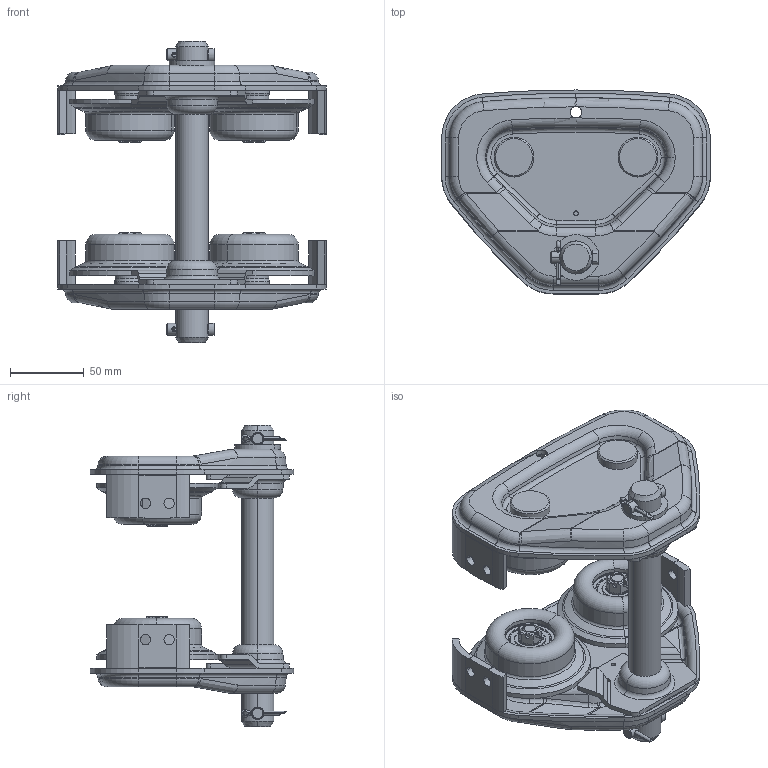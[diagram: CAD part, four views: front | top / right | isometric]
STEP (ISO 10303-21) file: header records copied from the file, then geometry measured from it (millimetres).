
FILE_DESCRIPTION (( 'STEP AP214' ), '1' );
FILE_NAME ('PTS2005.STEP', '2026-08-17T13:01:46', ( '' ), ( '' ), 'SwSTEP 2.0', 'SolidWorks 2026', '' );
FILE_SCHEMA (( 'AUTOMOTIVE_DESIGN' ));
Length unit declared in the file: inch
Products named in the file (17): T7PA0055112; T3P154020_T3P154020; 9009413_9009413; T7G115005; T6PA0059102; T6G800005P; T7PA0059142; 6202Z Bearing; T6PA0059113; 9009423_9009423; T6G156005; T6PA0059112; T6PA0059103; T7G117005; T6G5102005; T7PA0059141; PTS2005
Assembly tree (29 placements, depth 3):
  PTS2005
    T7PA0055112  x2
      T6PA0059112
      T6PA0059103
      T6PA0059113
      T7PA0059141
      T7PA0059142
    T7G115005
    T6G5102005  x4
      T6PA0059102
      6202Z Bearing
    9009413_9009413  x4
    T7G117005
    T6G156005  x2
    9009423_9009423  x2
    T6G800005P
    T3P154020_T3P154020  x4
Bounding box: 182 x 138 x 204 mm (x, y, z)
Volume: 447474 mm3; surface area: 291147.5 mm2
Topology: 31 solids, 47 shells, 2867 faces, 7432 edges, 4794 vertices
Faces by surface type: plane 1489, cylinder 574, torus 340, cone 264, bspline 200
Entity records: 34094 total; most frequent: CARTESIAN_POINT 10289, ORIENTED_EDGE 4902, DIRECTION 4493, EDGE_CURVE 2453, AXIS2_PLACEMENT_3D 1768, VERTEX_POINT 1601, EDGE_LOOP 1026, VECTOR 957
